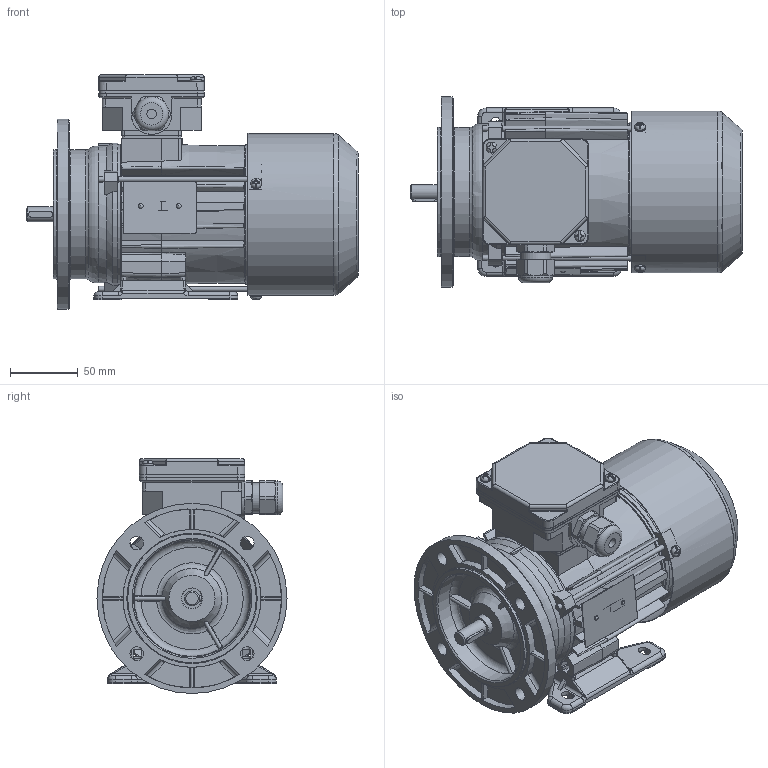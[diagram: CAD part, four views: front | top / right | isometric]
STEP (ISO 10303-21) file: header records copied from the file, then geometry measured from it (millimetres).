
FILE_DESCRIPTION(/* description */ ('Unknown'),/* implementation_level */ '2;1');
FILE_NAME(/* name */ '3SIEL63-6B',/* time_stamp */ '2021-02-01T14:38:19+01:00',/* author */ ('Unknown'),/* organization */ ('Unknown'),/* preprocessor_version */ 'ST-DEVELOPER v16.7',/* originating_system */ 'Solid Edge',/* authorisation */ 'Unknown');
FILE_SCHEMA (('AUTOMOTIVE_DESIGN {1 0 10303 214 3 1 1}'));
Products named in the file (1): 3SIEL63-6B
Bounding box: 244.47 x 140 x 173 mm (x, y, z)
Volume: 616483.6 mm3; surface area: 381400.5 mm2
Topology: 1 solids, 1 shells, 2323 faces, 6614 edges, 4295 vertices
Faces by surface type: plane 1204, cylinder 574, cone 265, bspline 133, torus 126, sphere 21
Full cylindrical faces by diameter (mm): 2 x1, 2.4 x2, 3.7 x7, 3.8 x1, 4 x8, 4.5 x3, 4.8 x2, 5 x2, 7 x4, 8 x6, 10 x4, 10.998 x1, 12.897 x1, 13.097 x1, 14.997 x2, 15.4 x2, 18.996 x2, 19.496 x1, 19.996 x1, 20.096 x1, 21.516 x4, 22.3 x1, 25 x1, 28 x2, 28.48 x4, 31 x2, 35 x3, 71.986 x1, 95 x2, 96 x1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
Entity records: 94722 total; most frequent: CARTESIAN_POINT 20057, ORIENTED_EDGE 12550, DIRECTION 11638, EDGE_CURVE 6275, AXIS2_PLACEMENT_3D 4192, VERTEX_POINT 4169, LINE 3254, VECTOR 3254
